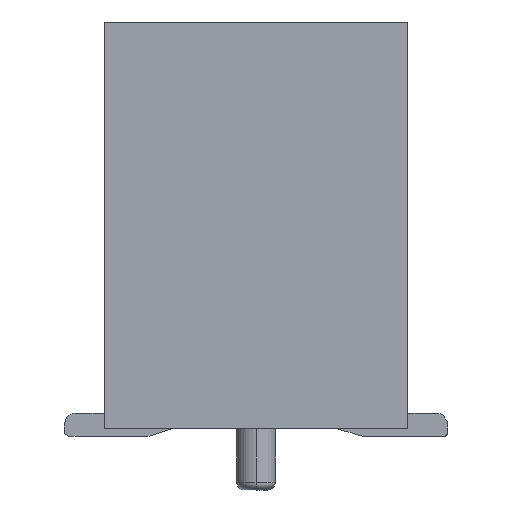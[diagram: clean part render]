
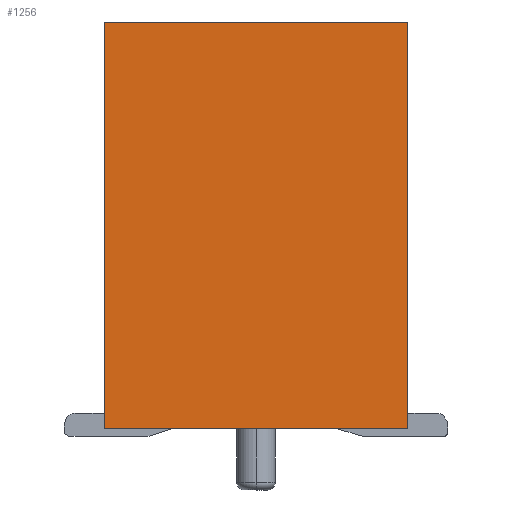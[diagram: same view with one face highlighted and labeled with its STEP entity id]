
A CAD part, left-side view. The second image highlights one B-rep face of the part: STEP entity #1256.
In plain terms, the highlighted planar face has unit normal (-1, 0, 0).
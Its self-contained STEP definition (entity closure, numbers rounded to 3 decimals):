
#1256 = ADVANCED_FACE ( 'NONE', ( #32919 ), #44816, .F. ) ;
#4963 = CARTESIAN_POINT ( 'NONE',  ( -80.436, 94.44, 0. ) ) ;
#8375 = ORIENTED_EDGE ( 'NONE', *, *, #61943, .F. ) ;
#13259 = EDGE_CURVE ( 'NONE', #14264, #56546, #47620, .T. ) ;
#13420 = DIRECTION ( 'NONE',  ( 0., 0., -1. ) ) ;
#14264 = VERTEX_POINT ( 'NONE', #73840 ) ;
#19189 = LINE ( 'NONE', #72281, #74557 ) ;
#21223 = VERTEX_POINT ( 'NONE', #63608 ) ;
#21859 = VECTOR ( 'NONE', #56932, 1000. ) ;
#28259 = EDGE_CURVE ( 'NONE', #14264, #21223, #50770, .T. ) ;
#28826 = AXIS2_PLACEMENT_3D ( 'NONE', #45571, #44440, #67545 ) ;
#29484 = ORIENTED_EDGE ( 'NONE', *, *, #28259, .T. ) ;
#29861 = VERTEX_POINT ( 'NONE', #4963 ) ;
#32919 = FACE_OUTER_BOUND ( 'NONE', #38022, .T. ) ;
#36468 = CARTESIAN_POINT ( 'NONE',  ( -80.436, 90.49, 5.3 ) ) ;
#38022 = EDGE_LOOP ( 'NONE', ( #65147, #29484, #75649, #8375 ) ) ;
#38504 = LINE ( 'NONE', #63119, #68353 ) ;
#42650 = DIRECTION ( 'NONE',  ( 0., 0., 1. ) ) ;
#44440 = DIRECTION ( 'NONE',  ( 1., 0., 0. ) ) ;
#44816 = PLANE ( 'NONE',  #28826 ) ;
#45571 = CARTESIAN_POINT ( 'NONE',  ( -80.436, 92.465, 2.65 ) ) ;
#45774 = DIRECTION ( 'NONE',  ( 0., 1., 0. ) ) ;
#47620 = LINE ( 'NONE', #36468, #53867 ) ;
#50770 = LINE ( 'NONE', #68863, #21859 ) ;
#53867 = VECTOR ( 'NONE', #13420, 1000. ) ;
#56546 = VERTEX_POINT ( 'NONE', #75791 ) ;
#56932 = DIRECTION ( 'NONE',  ( 0., 1., 0. ) ) ;
#60922 = EDGE_CURVE ( 'NONE', #29861, #21223, #19189, .T. ) ;
#61943 = EDGE_CURVE ( 'NONE', #56546, #29861, #38504, .T. ) ;
#63119 = CARTESIAN_POINT ( 'NONE',  ( -80.436, 90.49, 0. ) ) ;
#63608 = CARTESIAN_POINT ( 'NONE',  ( -80.436, 94.44, 5.3 ) ) ;
#65147 = ORIENTED_EDGE ( 'NONE', *, *, #13259, .F. ) ;
#67545 = DIRECTION ( 'NONE',  ( 0., 1., 0. ) ) ;
#68353 = VECTOR ( 'NONE', #45774, 1000. ) ;
#68863 = CARTESIAN_POINT ( 'NONE',  ( -80.436, 90.49, 5.3 ) ) ;
#72281 = CARTESIAN_POINT ( 'NONE',  ( -80.436, 94.44, 0. ) ) ;
#73840 = CARTESIAN_POINT ( 'NONE',  ( -80.436, 90.49, 5.3 ) ) ;
#74557 = VECTOR ( 'NONE', #42650, 1000. ) ;
#75649 = ORIENTED_EDGE ( 'NONE', *, *, #60922, .F. ) ;
#75791 = CARTESIAN_POINT ( 'NONE',  ( -80.436, 90.49, 0. ) ) ;
